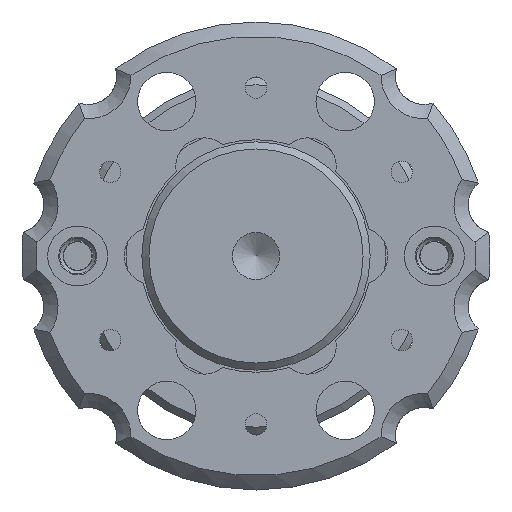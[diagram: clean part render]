
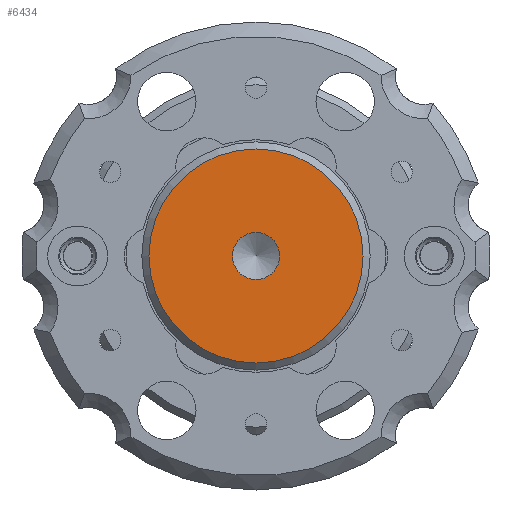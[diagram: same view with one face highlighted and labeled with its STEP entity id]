
A CAD part, front view. The second image highlights one B-rep face of the part: STEP entity #6434.
In plain terms, the highlighted planar face has unit normal (0, -1, 0) as drawn and (0, 1, 0) by its records, which use the part's own axes.
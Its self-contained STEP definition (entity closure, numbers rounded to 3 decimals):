
#354 = EDGE_CURVE ( 'NONE', #3227, #3227, #8020, .T. ) ;
#485 = CARTESIAN_POINT ( 'NONE',  ( 0., 12., -7.5 ) ) ;
#778 = CARTESIAN_POINT ( 'NONE',  ( -8., 12., 0. ) ) ;
#838 = CARTESIAN_POINT ( 'NONE',  ( 0., 12., 0. ) ) ;
#1248 = CIRCLE ( 'NONE', #10029, 1.65 ) ;
#1575 = EDGE_LOOP ( 'NONE', ( #10167 ) ) ;
#2449 = DIRECTION ( 'NONE',  ( 0., 0., -1. ) ) ;
#2823 = FACE_OUTER_BOUND ( 'NONE', #1575, .T. ) ;
#3140 = AXIS2_PLACEMENT_3D ( 'NONE', #838, #7259, #2449 ) ;
#3227 = VERTEX_POINT ( 'NONE', #485 ) ;
#3382 = ORIENTED_EDGE ( 'NONE', *, *, #4101, .F. ) ;
#3889 = DIRECTION ( 'NONE',  ( 0., 0., -1. ) ) ;
#4101 = EDGE_CURVE ( 'NONE', #5840, #5840, #1248, .T. ) ;
#4407 = CARTESIAN_POINT ( 'NONE',  ( 0., 12., 0. ) ) ;
#4445 = DIRECTION ( 'NONE',  ( 0., 0., 1. ) ) ;
#4782 = DIRECTION ( 'NONE',  ( 0., -1., 0. ) ) ;
#5397 = CARTESIAN_POINT ( 'NONE',  ( 0., 12., 1.65 ) ) ;
#5840 = VERTEX_POINT ( 'NONE', #5397 ) ;
#6434 = ADVANCED_FACE ( 'NONE', ( #2823, #8203 ), #10310, .F. ) ;
#7259 = DIRECTION ( 'NONE',  ( 0., 1., 0. ) ) ;
#8020 = CIRCLE ( 'NONE', #3140, 7.5 ) ;
#8203 = FACE_BOUND ( 'NONE', #9739, .T. ) ;
#8525 = DIRECTION ( 'NONE',  ( 0., 1., 0. ) ) ;
#9739 = EDGE_LOOP ( 'NONE', ( #3382 ) ) ;
#9784 = AXIS2_PLACEMENT_3D ( 'NONE', #778, #4782, #3889 ) ;
#10029 = AXIS2_PLACEMENT_3D ( 'NONE', #4407, #8525, #4445 ) ;
#10167 = ORIENTED_EDGE ( 'NONE', *, *, #354, .T. ) ;
#10310 = PLANE ( 'NONE',  #9784 ) ;
